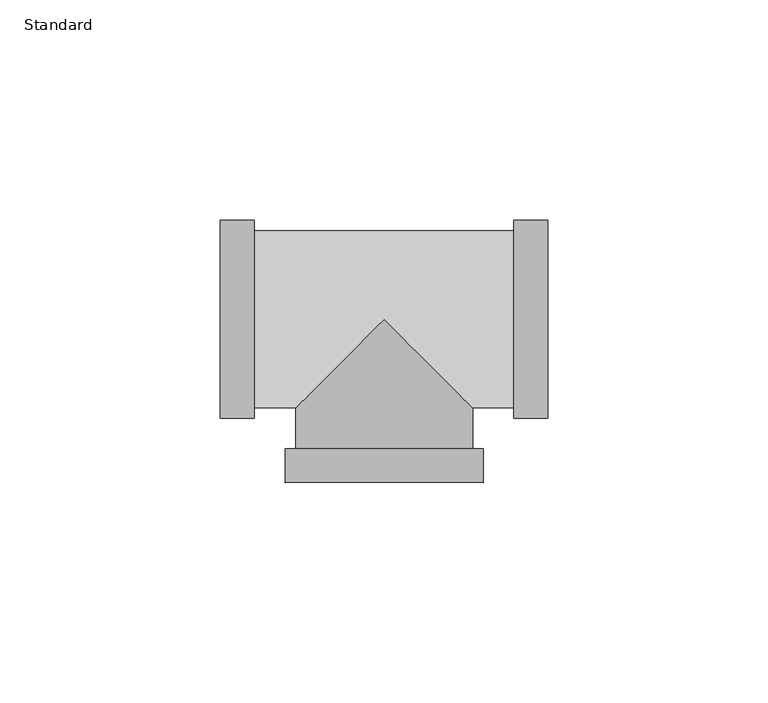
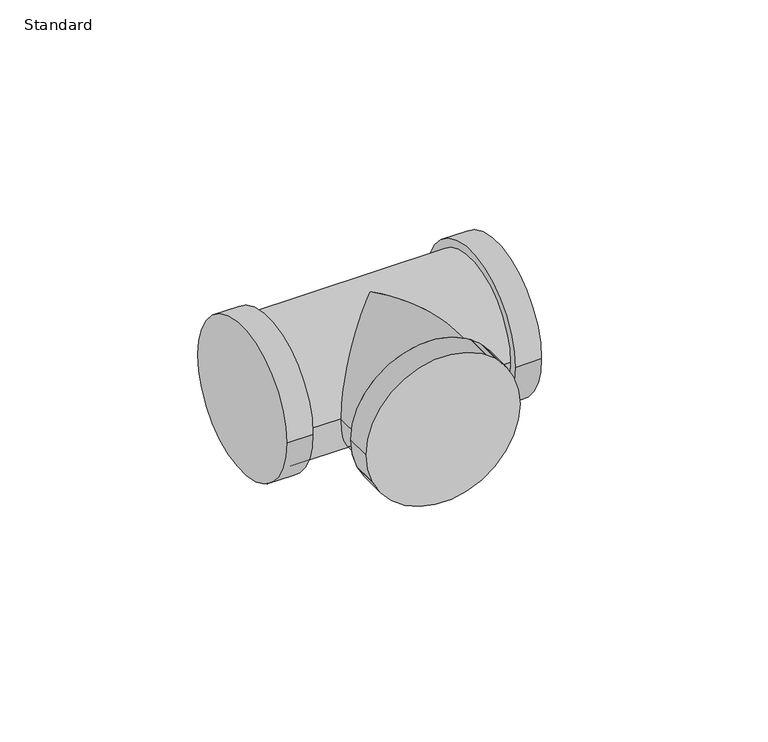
"""IFC4 building model written with IfcOpenShell, lengths in millimetres: pipe fitting geometry, Victaulic Grooved Tee : Standard."""

from ifc_helpers import new_model, si_unit, frame, origin, place, context, project, spatial, circle_curve, ellipse_curve, source, transform, mapped, element, save
from ifc_brep_helpers import plane_surface, cylinder_surface, advanced_brep


def standard_2c5c9f85(model_context):
    return source(origin(), model_context, "Body", "AdvancedBrep", [
        advanced_brep(
        [(-37.2625937, -22.5, 0.0), (-37.2625937, 22.5, 0.0), (-29.5625937, -22.5, 0.0), (-29.5625937, 22.5, 0.0), (-29.5625937, 20.1, 0.0), (-29.5625937, -20.1, 0.0), (29.4752813, 20.1, 0.0), (29.4752813, -20.1, 0.0), (20.1, -20.1, 0.0), (0.0, 0.0, -20.1), (-20.1, -20.1, 0.0), (0.0, 0.0, 20.1), (29.4752813, -22.5, 0.0), (29.4752813, 22.5, 0.0), (37.1752813, -22.5, 0.0), (37.1752813, 22.5, 0.0), (-20.1, -29.3879688, 0.0), (20.1, -29.3879688, 0.0), (-22.5, -29.3879688, 0.0), (22.5, -29.3879688, 0.0), (-22.5, -37.0879688, 0.0), (22.5, -37.0879688, 0.0)],
        [
            (0, 1, circle_curve(frame((-37.2625937, 0.0, 0.0), z_axis=(-1.0, 0.0, 0.0), x_axis=(0.0, 1.0, 0.0)), 22.5)),
            (1, 0, circle_curve(frame((-37.2625937, 0.0, 0.0), z_axis=(-1.0, 0.0, 0.0), x_axis=(0.0, 1.0, 0.0)), 22.5)),
            (2, 3, circle_curve(frame((-29.5625937, 0.0, 0.0), z_axis=(1.0, 0.0, 0.0), x_axis=(0.0, 1.0, 0.0)), 22.5)),
            (3, 2, circle_curve(frame((-29.5625937, 0.0, 0.0), z_axis=(1.0, 0.0, 0.0), x_axis=(0.0, 1.0, 0.0)), 22.5)),
            (4, 5, circle_curve(frame((-29.5625937, 0.0, 0.0), z_axis=(-1.0, 0.0, 0.0), x_axis=(0.0, 0.0, -1.0)), 20.1)),
            (5, 4, circle_curve(frame((-29.5625937, 0.0, 0.0), z_axis=(-1.0, 0.0, 0.0), x_axis=(0.0, 0.0, 1.0)), 20.1)),
            (0, 2),
            (3, 1),
            (4, 6),
            (6, 7, circle_curve(frame((29.4752813, 0.0, 0.0), z_axis=(-1.0, 0.0, 0.0), x_axis=(0.0, 0.0, -1.0)), 20.1)),
            (7, 8),
            (8, 9, ellipse_curve(frame((0.0, 0.0, 0.0), z_axis=(0.7071067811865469, 0.707106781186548, 0.0), x_axis=(0.7071067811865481, -0.7071067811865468, 0.0)), 28.4256926, 20.1)),
            (9, 10, ellipse_curve(frame((0.0, 0.0, 0.0), z_axis=(-0.707106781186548, 0.7071067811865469, 0.0), x_axis=(0.7071067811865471, 0.7071067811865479, 0.0)), 28.4256926, 20.1)),
            (10, 5),
            (10, 11, ellipse_curve(frame((0.0, 0.0, 0.0), z_axis=(-0.707106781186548, 0.7071067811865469, 0.0), x_axis=(0.7071067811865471, 0.7071067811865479, 0.0)), 28.4256926, 20.1)),
            (11, 8, ellipse_curve(frame((0.0, 0.0, 0.0), z_axis=(0.7071067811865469, 0.707106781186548, 0.0), x_axis=(0.7071067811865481, -0.7071067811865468, 0.0)), 28.4256926, 20.1)),
            (7, 6, circle_curve(frame((29.4752813, 0.0, 0.0), z_axis=(-1.0, 0.0, 0.0), x_axis=(0.0, 0.0, 1.0)), 20.1)),
            (12, 13, circle_curve(frame((29.4752813, 0.0, 0.0), z_axis=(-1.0, 0.0, 0.0), x_axis=(0.0, 1.0, 0.0)), 22.5)),
            (13, 12, circle_curve(frame((29.4752813, 0.0, 0.0), z_axis=(-1.0, 0.0, 0.0), x_axis=(0.0, 1.0, 0.0)), 22.5)),
            (14, 15, circle_curve(frame((37.1752813, 0.0, 0.0), z_axis=(1.0, 0.0, 0.0), x_axis=(0.0, 1.0, 0.0)), 22.5)),
            (15, 14, circle_curve(frame((37.1752813, 0.0, 0.0), z_axis=(1.0, 0.0, 0.0), x_axis=(0.0, 1.0, 0.0)), 22.5)),
            (12, 14),
            (15, 13),
            (10, 16),
            (16, 17, circle_curve(frame((0.0, -29.3879688, 0.0), z_axis=(0.0, 1.0, 0.0), x_axis=(1.0, 0.0, 0.0)), 20.1)),
            (17, 8),
            (17, 16, circle_curve(frame((0.0, -29.3879688, 0.0), z_axis=(0.0, 1.0, 0.0), x_axis=(1.0, 0.0, 0.0)), 20.1)),
            (18, 19, circle_curve(frame((0.0, -29.3879688, 0.0), z_axis=(0.0, 1.0, 0.0), x_axis=(1.0, 0.0, 0.0)), 22.5)),
            (19, 18, circle_curve(frame((0.0, -29.3879688, 0.0), z_axis=(0.0, 1.0, 0.0), x_axis=(1.0, 0.0, 0.0)), 22.5)),
            (20, 21, circle_curve(frame((0.0, -37.0879688, 0.0), z_axis=(0.0, -1.0, 0.0), x_axis=(1.0, 0.0, 0.0)), 22.5)),
            (21, 20, circle_curve(frame((0.0, -37.0879688, 0.0), z_axis=(0.0, -1.0, 0.0), x_axis=(1.0, 0.0, 0.0)), 22.5)),
            (18, 20),
            (21, 19),
        ],
        [
            plane_surface(frame((-37.2625937, 0.0, 0.0), z_axis=(-1.0, 0.0, 0.0), x_axis=(0.0, 0.0, 1.0))),
            plane_surface(frame((-29.5625937, 0.0, 0.0), z_axis=(1.0, 0.0, 0.0), x_axis=(0.0, 0.0, 1.0))),
            cylinder_surface(frame((-37.2625937, 0.0, 0.0), z_axis=(-1.0, 0.0, 0.0), x_axis=(0.0, 1.0, 0.0)), 22.5),
            cylinder_surface(frame((-29.5625937, 0.0, 0.0), z_axis=(1.0, 0.0, 0.0), x_axis=(0.0, 0.0, -1.0)), 20.1),
            cylinder_surface(frame((-29.5625937, 0.0, 0.0), z_axis=(1.0, 0.0, 0.0), x_axis=(0.0, 0.0, 1.0)), 20.1),
            plane_surface(frame((29.4752813, 0.0, 0.0), z_axis=(-1.0, 0.0, 0.0), x_axis=(0.0, 0.0, 1.0))),
            plane_surface(frame((37.1752813, 0.0, 0.0), z_axis=(1.0, 0.0, 0.0), x_axis=(0.0, 0.0, 1.0))),
            cylinder_surface(frame((29.4752813, 0.0, 0.0), z_axis=(-1.0, 0.0, 0.0), x_axis=(0.0, 1.0, 0.0)), 22.5),
            cylinder_surface(frame((0.0, 0.0, 0.0), z_axis=(0.0, 1.0, 0.0), x_axis=(1.0, 0.0, 0.0)), 20.1),
            plane_surface(frame((0.0, -29.3879688, 0.0), z_axis=(0.0, 1.0, 0.0), x_axis=(0.0, 0.0, 1.0))),
            plane_surface(frame((0.0, -37.0879688, 0.0), z_axis=(0.0, -1.0, 0.0), x_axis=(0.0, 0.0, 1.0))),
            cylinder_surface(frame((0.0, -29.3879688, 0.0), z_axis=(0.0, 1.0, 0.0), x_axis=(1.0, 0.0, 0.0)), 22.5),
        ],
        [
            (0, [[1, 2]]),
            (1, [[3, 4], [5, 6]]),
            (2, [[-1, 7, -4, 8]]),
            (2, [[-2, -8, -3, -7]]),
            (3, [[9, 10, 11, 12, 13, 14, -5]]),
            (4, [[-9, -6, -14, 15, 16, -11, 17]]),
            (5, [[18, 19], [-10, -17]]),
            (6, [[20, 21]]),
            (7, [[-18, 22, -21, 23]]),
            (7, [[-19, -23, -20, -22]]),
            (8, [[24, 25, 26, -16, -15]]),
            (8, [[-24, -13, -12, -26, 27]]),
            (9, [[28, 29], [-25, -27]]),
            (10, [[30, 31]]),
            (11, [[-28, 32, -31, 33]]),
            (11, [[-29, -33, -30, -32]]),
        ],
    ),
        advanced_brep(
        [(-29.5625937, 20.1, 0.0), (29.4752813, 20.1, 0.0), (29.4752813, -20.1, 0.0), (20.1, -20.1, 0.0), (0.0, 0.0, -20.1), (-20.1, -20.1, 0.0), (-29.5625937, -20.1, 0.0), (0.0, 0.0, 20.1), (-37.2625937, -22.5, 0.0), (-37.2625937, 22.5, 0.0), (-29.5625937, -22.5, 0.0), (-29.5625937, 22.5, 0.0), (29.4752813, -22.5, 0.0), (29.4752813, 22.5, 0.0), (37.1752813, -22.5, 0.0), (37.1752813, 22.5, 0.0), (-20.1, -29.3879688, 0.0), (20.1, -29.3879688, 0.0), (22.5, -37.0879688, 0.0), (-22.5, -37.0879688, 0.0), (22.5, -29.3879688, 0.0), (-22.5, -29.3879688, 0.0)],
        [
            (0, 1),
            (1, 2, circle_curve(frame((29.4752813, 0.0, 0.0), z_axis=(-1.0, 0.0, 0.0), x_axis=(0.0, 0.0, -1.0)), 20.1)),
            (2, 3),
            (3, 4, ellipse_curve(frame((0.0, 0.0, 0.0), z_axis=(0.7071067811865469, 0.707106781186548, 0.0), x_axis=(0.7071067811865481, -0.7071067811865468, 0.0)), 28.4256926, 20.1)),
            (4, 5, ellipse_curve(frame((0.0, 0.0, 0.0), z_axis=(-0.707106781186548, 0.7071067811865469, 0.0), x_axis=(0.7071067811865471, 0.7071067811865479, 0.0)), 28.4256926, 20.1)),
            (5, 6),
            (6, 0, circle_curve(frame((-29.5625937, 0.0, 0.0), z_axis=(1.0, 0.0, 0.0), x_axis=(0.0, 0.0, -1.0)), 20.1)),
            (0, 6, circle_curve(frame((-29.5625937, 0.0, 0.0), z_axis=(1.0, 0.0, 0.0), x_axis=(0.0, 0.0, 1.0)), 20.1)),
            (5, 7, ellipse_curve(frame((0.0, 0.0, 0.0), z_axis=(-0.707106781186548, 0.7071067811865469, 0.0), x_axis=(0.7071067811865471, 0.7071067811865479, 0.0)), 28.4256926, 20.1)),
            (7, 3, ellipse_curve(frame((0.0, 0.0, 0.0), z_axis=(0.7071067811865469, 0.707106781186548, 0.0), x_axis=(0.7071067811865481, -0.7071067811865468, 0.0)), 28.4256926, 20.1)),
            (2, 1, circle_curve(frame((29.4752813, 0.0, 0.0), z_axis=(-1.0, 0.0, 0.0), x_axis=(0.0, 0.0, 1.0)), 20.1)),
            (8, 9, circle_curve(frame((-37.2625937, 0.0, 0.0), z_axis=(-1.0, 0.0, 0.0), x_axis=(0.0, 1.0, 0.0)), 22.5)),
            (9, 8, circle_curve(frame((-37.2625937, 0.0, 0.0), z_axis=(-1.0, 0.0, 0.0), x_axis=(0.0, 1.0, 0.0)), 22.5)),
            (10, 11, circle_curve(frame((-29.5625937, 0.0, 0.0), z_axis=(1.0, 0.0, 0.0), x_axis=(0.0, 1.0, 0.0)), 22.5)),
            (11, 10, circle_curve(frame((-29.5625937, 0.0, 0.0), z_axis=(1.0, 0.0, 0.0), x_axis=(0.0, 1.0, 0.0)), 22.5)),
            (8, 10),
            (11, 9),
            (12, 13, circle_curve(frame((29.4752813, 0.0, 0.0), z_axis=(-1.0, 0.0, 0.0), x_axis=(0.0, 1.0, 0.0)), 22.5)),
            (13, 12, circle_curve(frame((29.4752813, 0.0, 0.0), z_axis=(-1.0, 0.0, 0.0), x_axis=(0.0, 1.0, 0.0)), 22.5)),
            (14, 15, circle_curve(frame((37.1752813, 0.0, 0.0), z_axis=(1.0, 0.0, 0.0), x_axis=(0.0, 1.0, 0.0)), 22.5)),
            (15, 14, circle_curve(frame((37.1752813, 0.0, 0.0), z_axis=(1.0, 0.0, 0.0), x_axis=(0.0, 1.0, 0.0)), 22.5)),
            (12, 14),
            (15, 13),
            (5, 16),
            (16, 17, circle_curve(frame((0.0, -29.3879688, 0.0), z_axis=(0.0, 1.0, 0.0), x_axis=(1.0, 0.0, 0.0)), 20.1)),
            (17, 3),
            (17, 16, circle_curve(frame((0.0, -29.3879688, 0.0), z_axis=(0.0, 1.0, 0.0), x_axis=(1.0, 0.0, 0.0)), 20.1)),
            (18, 19, circle_curve(frame((0.0, -37.0879688, 0.0), z_axis=(0.0, -1.0, 0.0), x_axis=(-1.0, 0.0, 0.0)), 22.5)),
            (19, 18, circle_curve(frame((0.0, -37.0879688, 0.0), z_axis=(0.0, -1.0, 0.0), x_axis=(-1.0, 0.0, 0.0)), 22.5)),
            (20, 21, circle_curve(frame((0.0, -29.3879688, 0.0), z_axis=(0.0, 1.0, 0.0), x_axis=(-1.0, 0.0, 0.0)), 22.5)),
            (21, 20, circle_curve(frame((0.0, -29.3879688, 0.0), z_axis=(0.0, 1.0, 0.0), x_axis=(-1.0, 0.0, 0.0)), 22.5)),
            (18, 20),
            (21, 19),
        ],
        [
            cylinder_surface(frame((-29.5625937, 0.0, 0.0), z_axis=(1.0, 0.0, 0.0), x_axis=(0.0, 0.0, -1.0)), 20.1),
            cylinder_surface(frame((-29.5625937, 0.0, 0.0), z_axis=(1.0, 0.0, 0.0), x_axis=(0.0, 0.0, 1.0)), 20.1),
            plane_surface(frame((-37.2625937, 0.0, 0.0), z_axis=(-1.0, 0.0, 0.0), x_axis=(0.0, 0.0, 1.0))),
            plane_surface(frame((-29.5625937, 0.0, 0.0), z_axis=(1.0, 0.0, 0.0), x_axis=(0.0, 0.0, 1.0))),
            cylinder_surface(frame((-37.2625937, 0.0, 0.0), z_axis=(-1.0, 0.0, 0.0), x_axis=(0.0, 1.0, 0.0)), 22.5),
            plane_surface(frame((29.4752813, 0.0, 0.0), z_axis=(-1.0, 0.0, 0.0), x_axis=(0.0, 0.0, 1.0))),
            plane_surface(frame((37.1752813, 0.0, 0.0), z_axis=(1.0, 0.0, 0.0), x_axis=(0.0, 0.0, 1.0))),
            cylinder_surface(frame((29.4752813, 0.0, 0.0), z_axis=(-1.0, 0.0, 0.0), x_axis=(0.0, 1.0, 0.0)), 22.5),
            cylinder_surface(frame((0.0, 0.0, 0.0), z_axis=(0.0, 1.0, 0.0), x_axis=(1.0, 0.0, 0.0)), 20.1),
            plane_surface(frame((0.0, -37.0879688, 0.0), z_axis=(0.0, -1.0, 0.0), x_axis=(0.0, 0.0, 1.0))),
            plane_surface(frame((0.0, -29.3879688, 0.0), z_axis=(0.0, 1.0, 0.0), x_axis=(0.0, 0.0, 1.0))),
            cylinder_surface(frame((0.0, -37.0879688, 0.0), z_axis=(0.0, -1.0, 0.0), x_axis=(-1.0, 0.0, 0.0)), 22.5),
        ],
        [
            (0, [[1, 2, 3, 4, 5, 6, 7]]),
            (1, [[-1, 8, -6, 9, 10, -3, 11]]),
            (2, [[12, 13]]),
            (3, [[14, 15], [-7, -8]]),
            (4, [[-12, 16, -15, 17]]),
            (4, [[-13, -17, -14, -16]]),
            (5, [[18, 19], [-2, -11]]),
            (6, [[20, 21]]),
            (7, [[-18, 22, -21, 23]]),
            (7, [[-19, -23, -20, -22]]),
            (8, [[24, 25, 26, -10, -9]]),
            (8, [[-24, -5, -4, -26, 27]]),
            (9, [[28, 29]]),
            (10, [[30, 31], [-25, -27]]),
            (11, [[-28, 32, -31, 33]]),
            (11, [[-29, -33, -30, -32]]),
        ],
    ),
    ])


if __name__ == "__main__":
    model = new_model("IFC4")
    model_context = context("Model", 3, world=origin())
    ifc_project = project(units=[si_unit("LENGTHUNIT", "METRE", prefix="MILLI")], contexts=[model_context])
    site = spatial("IfcSite", under=ifc_project)
    building = spatial("IfcBuilding", under=site)
    placement = place(None, origin())
    standard_shape = standard_2c5c9f85(model_context)
    element("IfcPipeFitting", 1, ObjectType="Victaulic Grooved Tee : Standard", at=placement, inside=building, context=model_context, shape_type="MappedRepresentation", body=[
        mapped(standard_shape, transform((0.0, 0.0, 0.0), x_axis=(1.0, 0.0, 0.0), y_axis=(0.0, 1.0, 0.0), z_axis=(0.0, 0.0, 1.0))),
    ])
    save(model, "model.ifc")
